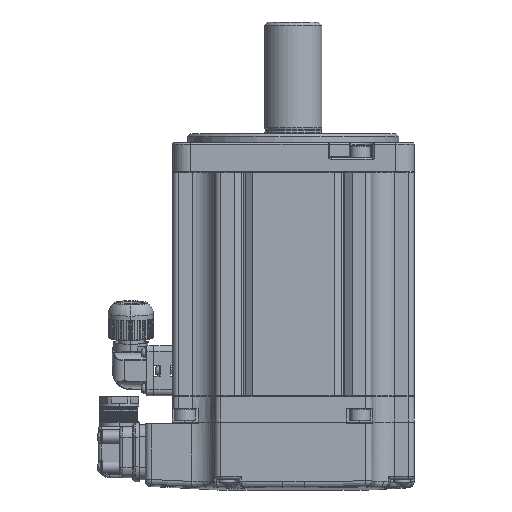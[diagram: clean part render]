
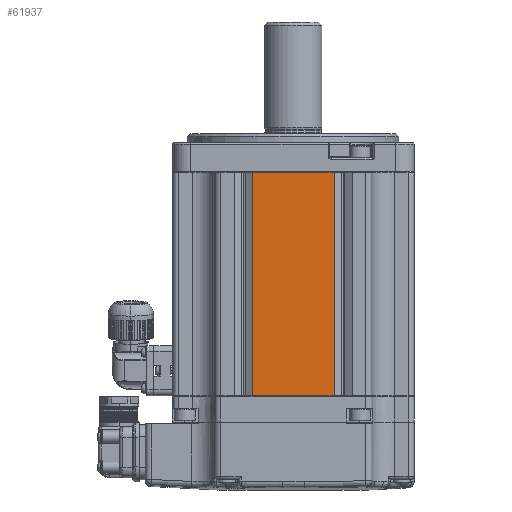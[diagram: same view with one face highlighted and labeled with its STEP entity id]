
A CAD part, front view. The second image highlights one B-rep face of the part: STEP entity #61937.
In plain terms, the highlighted planar face has unit normal (0, -1, 0).
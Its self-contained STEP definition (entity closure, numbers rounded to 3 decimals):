
#4732 = ORIENTED_EDGE ( 'NONE', *, *, #66812, .T. ) ;
#7395 = DIRECTION ( 'NONE',  ( 0., 1., 0. ) ) ;
#10880 = VERTEX_POINT ( 'NONE', #12869 ) ;
#12869 = CARTESIAN_POINT ( 'NONE',  ( 111.908, 62.997, 81. ) ) ;
#14098 = ORIENTED_EDGE ( 'NONE', *, *, #31431, .T. ) ;
#17415 = ORIENTED_EDGE ( 'NONE', *, *, #63279, .F. ) ;
#19978 = FACE_OUTER_BOUND ( 'NONE', #87410, .T. ) ;
#25882 = DIRECTION ( 'NONE',  ( 0., 0., 1. ) ) ;
#26062 = CARTESIAN_POINT ( 'NONE',  ( 111.908, 62.997, 81.8 ) ) ;
#26154 = EDGE_CURVE ( 'NONE', #83571, #10880, #62700, .T. ) ;
#28885 = VECTOR ( 'NONE', #25882, 1000. ) ;
#29259 = LINE ( 'NONE', #26062, #28885 ) ;
#31431 = EDGE_CURVE ( 'NONE', #10880, #39945, #29259, .T. ) ;
#35169 = CARTESIAN_POINT ( 'NONE',  ( 111.908, 62.997, 155.1 ) ) ;
#38838 = CARTESIAN_POINT ( 'NONE',  ( 111.908, 62.997, 81. ) ) ;
#39945 = VERTEX_POINT ( 'NONE', #35169 ) ;
#40574 = ORIENTED_EDGE ( 'NONE', *, *, #26154, .T. ) ;
#42933 = VECTOR ( 'NONE', #55043, 1000. ) ;
#45113 = LINE ( 'NONE', #69052, #42933 ) ;
#46432 = CARTESIAN_POINT ( 'NONE',  ( 84.908, 62.997, 155.1 ) ) ;
#49343 = CARTESIAN_POINT ( 'NONE',  ( 98.408, 62.997, 147.3 ) ) ;
#50742 = LINE ( 'NONE', #74665, #85792 ) ;
#50790 = VECTOR ( 'NONE', #72629, 1000. ) ;
#53934 = DIRECTION ( 'NONE',  ( -1., 0., 0. ) ) ;
#55043 = DIRECTION ( 'NONE',  ( 0., 0., 1. ) ) ;
#56433 = DIRECTION ( 'NONE',  ( -1., 0., 0. ) ) ;
#58657 = VERTEX_POINT ( 'NONE', #46432 ) ;
#61143 = AXIS2_PLACEMENT_3D ( 'NONE', #49343, #7395, #56433 ) ;
#61937 = ADVANCED_FACE ( 'NONE', ( #19978 ), #63072, .F. ) ;
#62700 = LINE ( 'NONE', #38838, #50790 ) ;
#63072 = PLANE ( 'NONE',  #61143 ) ;
#63279 = EDGE_CURVE ( 'NONE', #83571, #58657, #45113, .T. ) ;
#66812 = EDGE_CURVE ( 'NONE', #39945, #58657, #50742, .T. ) ;
#69052 = CARTESIAN_POINT ( 'NONE',  ( 84.908, 62.997, 81.8 ) ) ;
#72629 = DIRECTION ( 'NONE',  ( 1., 0., 0. ) ) ;
#74665 = CARTESIAN_POINT ( 'NONE',  ( 84.908, 62.997, 155.1 ) ) ;
#81193 = CARTESIAN_POINT ( 'NONE',  ( 84.908, 62.997, 81. ) ) ;
#83571 = VERTEX_POINT ( 'NONE', #81193 ) ;
#85792 = VECTOR ( 'NONE', #53934, 1000. ) ;
#87410 = EDGE_LOOP ( 'NONE', ( #17415, #40574, #14098, #4732 ) ) ;
